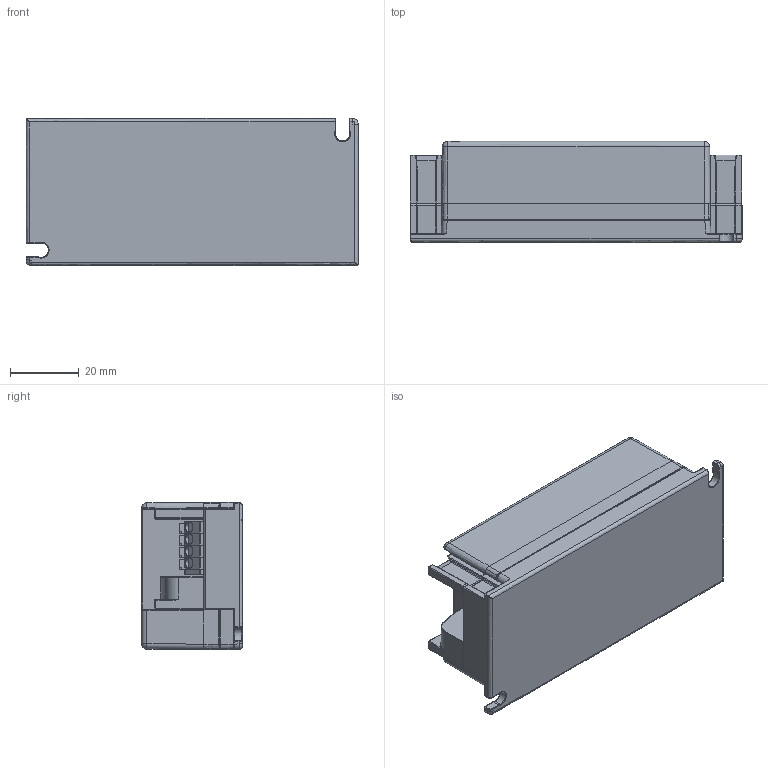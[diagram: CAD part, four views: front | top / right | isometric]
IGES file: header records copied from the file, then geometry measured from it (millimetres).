
Start section: SolidWorks IGES file using analytic representation for surfaces
Global section: file name: D:\ECTR_TEMP\OLQ-batchEngine\queue\temp\4192485swm000.igs; native system: SolidWorks 2017; preprocessor: SolidWorks 2017; author: SYSTEM; date: 200213.092204; units: millimetre
Bounding box: 96.94 x 29.5 x 43 mm (x, y, z)
Surface area: 19068.4 mm2 (no closed solid volume)
Topology: 0 solids, 0 shells, 1175 faces, 7343 edges, 7291 vertices
Faces by surface type: bspline 679, revolution 496
